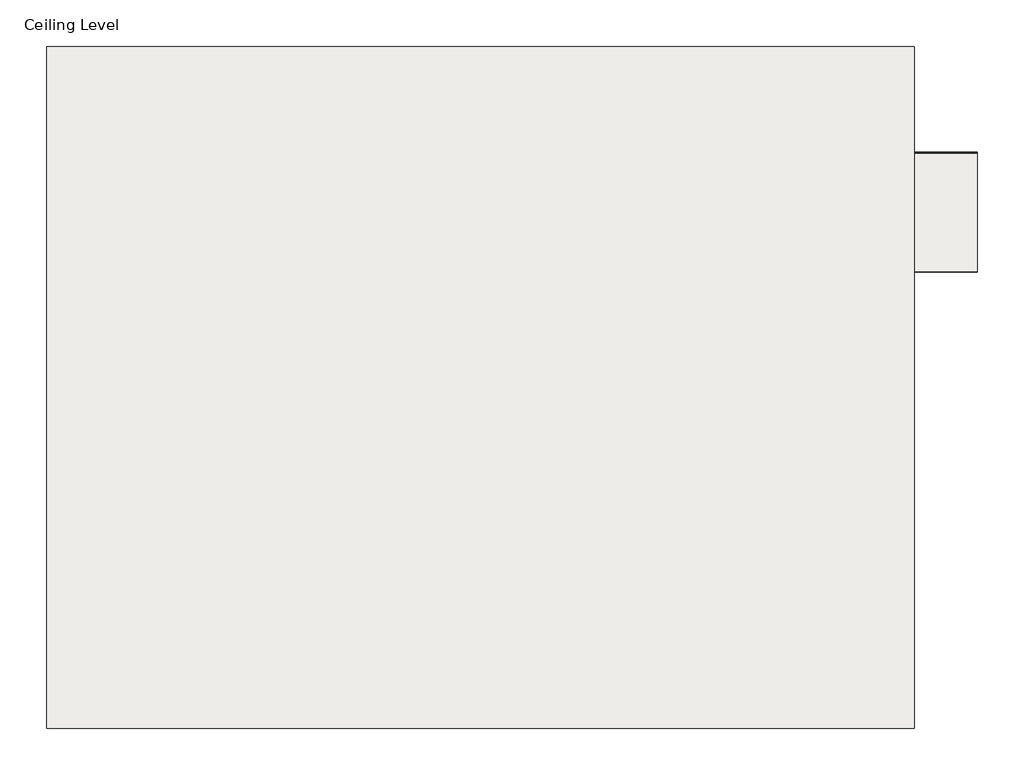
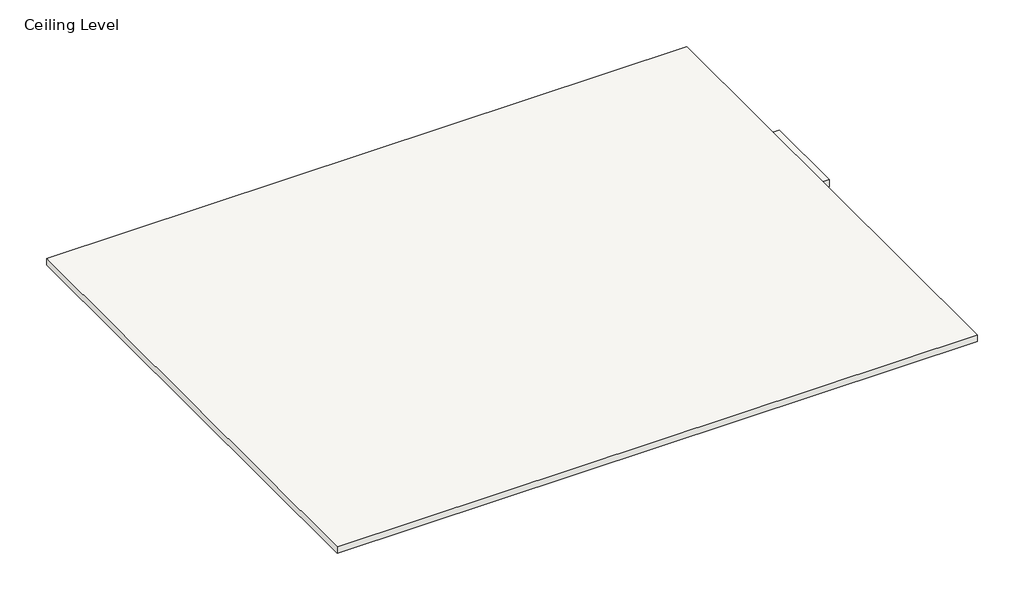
# One storey: 7 coverings.
"""IFC4 building model written with IfcOpenShell, lengths in millimetres."""

from ifc_helpers import new_model, si_unit, frame, origin, place, context, project, spatial, polyline, outline, extrude, element, save

model = new_model("IFC4")

# Units and contexts
model_context = context("Model", 3, world=origin())
ifc_project = project(units=[si_unit("LENGTHUNIT", "METRE", prefix="MILLI")], contexts=[model_context])

# Site, building, storey
site = spatial("IfcSite", under=ifc_project)
building = spatial("IfcBuilding", under=site)
storey = spatial("IfcBuildingStorey", under=building, Name="Ceiling Level", Elevation=0.0)

# Coverings
placement = place(None, origin())
element("IfcCovering", 1, ObjectType="Rockfon Sonar dB 43 D (white) 1200 x 600 x 40 mm", at=placement, inside=storey, context=model_context, shape_type="SweptSolid", body=[
    extrude(outline(polyline([(-7000.9781072, 8795.7122432), (-7000.9781072, 5895.7122432), (-10690.9781072, 5895.7122432), (-10690.9781072, 8795.7122432), (-7000.9781072, 8795.7122432)])), frame((0.0, 0.0, 1.0), z_axis=(0.0, 0.0, 1.0), x_axis=(1.0, 0.0, 0.0)), (0.0, 0.0, 1.0), 40.0),
])
element("IfcCovering", 2, ObjectType="Rockfon Sonar dB 43 E24 (white) 600 x 600 x 40 mm", at=placement, inside=storey, context=model_context, shape_type="SweptSolid", body=[
    extrude(outline(polyline([(-6733.0033126, 8336.1346227), (-6733.0033126, 7836.1346227), (-7133.0033126, 7836.1346227), (-7133.0033126, 8336.1346227), (-6733.0033126, 8336.1346227)])), frame((0.0, 0.0, -1460.0547514), z_axis=(0.0, 0.0, 1.0), x_axis=(1.0, 0.0, 0.0)), (0.0, 0.0, 1.0), 40.0),
])
element("IfcCovering", 3, ObjectType="Rockfon Sonar dB 43 E15 (white) 600 x 600 x 40 mm", at=placement, inside=storey, context=model_context, shape_type="SweptSolid", body=[
    extrude(outline(polyline([(-6733.0033126, 8339.0072995), (-6733.0033126, 7839.0072995), (-7133.0033126, 7839.0072995), (-7133.0033126, 8339.0072995), (-6733.0033126, 8339.0072995)])), frame((0.0, 0.0, -1288.8354933), z_axis=(0.0, 0.0, 1.0), x_axis=(1.0, 0.0, 0.0)), (0.0, 0.0, 1.0), 40.0),
])
element("IfcCovering", 4, ObjectType="Rockfon Sonar dB 43 A24 (white) 600 x 600 x 40 mm", at=placement, inside=storey, context=model_context, shape_type="SweptSolid", body=[
    extrude(outline(polyline([(-6733.0033126, 8338.9370334), (-6733.0033126, 7838.9370334), (-7133.0033126, 7838.9370334), (-7133.0033126, 8338.9370334), (-6733.0033126, 8338.9370334)])), frame((0.0, 0.0, -325.3994076), z_axis=(0.0, 0.0, 1.0), x_axis=(1.0, 0.0, 0.0)), (0.0, 0.0, 1.0), 40.0),
])
element("IfcCovering", 5, ObjectType="Rockfon Sonar dB 43 D (white) 600 x 600 x 40 mm", at=placement, inside=storey, context=model_context, shape_type="SweptSolid", body=[
    extrude(outline(polyline([(-6733.0033126, 8342.1065761), (-6733.0033126, 7842.1065761), (-7133.0033126, 7842.1065761), (-7133.0033126, 8342.1065761), (-6733.0033126, 8342.1065761)])), frame((0.0, 0.0, -476.581023), z_axis=(0.0, 0.0, 1.0), x_axis=(1.0, 0.0, 0.0)), (0.0, 0.0, 1.0), 40.0),
])
element("IfcCovering", 6, ObjectType="Rockfon Sonar dB 43 Dznl/A100 (white) 1200 x 300 x 40 mm", at=placement, inside=storey, context=model_context, shape_type="SweptSolid", body=[
    extrude(outline(polyline([(-6733.0033126, 8345.7975981), (-6733.0033126, 7845.7975981), (-7133.0033126, 7845.7975981), (-7133.0033126, 8345.7975981), (-6733.0033126, 8345.7975981)])), frame((0.0, 0.0, -715.9568835), z_axis=(0.0, 0.0, 1.0), x_axis=(1.0, 0.0, 0.0)), (0.0, 0.0, 1.0), 40.0),
])
element("IfcCovering", 7, ObjectType="Rockfon Sonar dB 43 Dznl/A24 (white) 1200 x 300 x 40 mm", at=placement, inside=storey, context=model_context, shape_type="SweptSolid", body=[
    extrude(outline(polyline([(-6733.0033126, 8345.4631577), (-6733.0033126, 7845.4631577), (-7133.0033126, 7845.4631577), (-7133.0033126, 8345.4631577), (-6733.0033126, 8345.4631577)])), frame((0.0, 0.0, -1054.4913833), z_axis=(0.0, 0.0, 1.0), x_axis=(1.0, 0.0, 0.0)), (0.0, 0.0, 1.0), 40.0),
])

save(model, "model.ifc")
